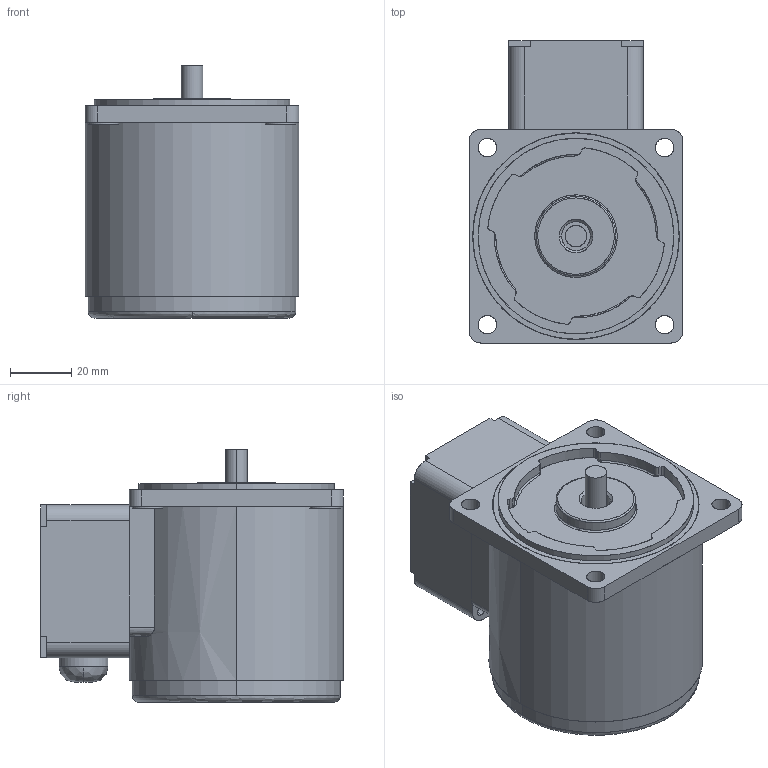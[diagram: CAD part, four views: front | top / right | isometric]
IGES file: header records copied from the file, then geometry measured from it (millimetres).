
Start section: SolidWorks IGES file using analytic representation for surfaces
Bounding box: 70 x 99 x 82.5 mm (x, y, z)
Surface area: 61242.9 mm2 (no closed solid volume)
Topology: 0 solids, 0 shells, 185 faces, 3468 edges, 3468 vertices
Faces by surface type: revolution 96, bspline 89
